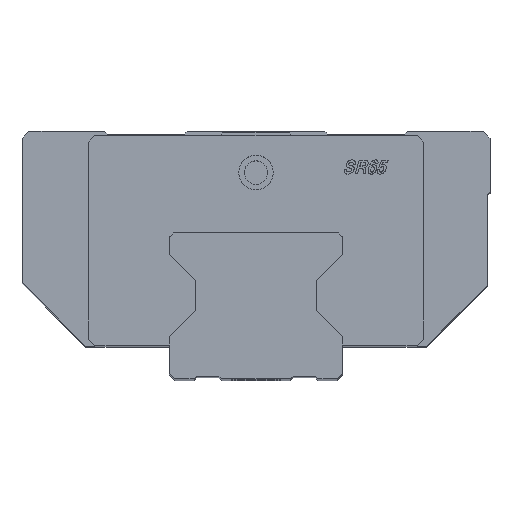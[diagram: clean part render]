
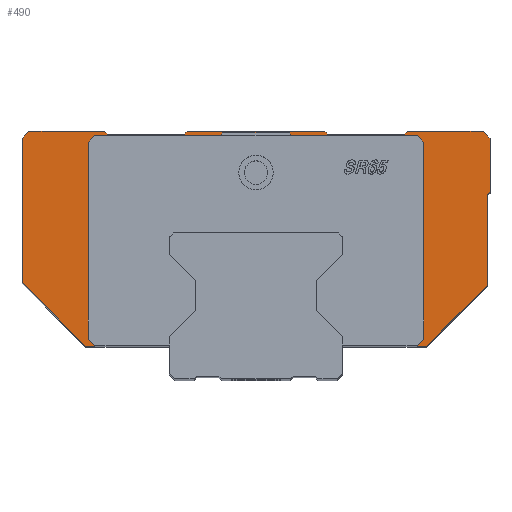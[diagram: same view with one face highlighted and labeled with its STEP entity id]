
A CAD part, top view. The second image highlights one B-rep face of the part: STEP entity #490.
In plain terms, the highlighted planar face has unit normal (0, 0, 1).
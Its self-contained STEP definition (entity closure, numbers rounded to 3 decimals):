
#490=ADVANCED_FACE('',(#854),#727,.T.);
#727=PLANE('',#5608);
#854=FACE_OUTER_BOUND('',#1148,.T.);
#1148=EDGE_LOOP('',(#2419,#2420,#2421,#2422,#2423,#2424,#2425,#2426,#2427,
#2428,#2429,#2430,#2431,#2432,#2433,#2434,#2435,#2436,#2437,#2438,#2439,
#2440,#2441,#2442,#2443,#2444,#2445,#2446,#2447,#2448));
#2419=ORIENTED_EDGE('',*,*,#4160,.F.);
#2420=ORIENTED_EDGE('',*,*,#4163,.F.);
#2421=ORIENTED_EDGE('',*,*,#4170,.F.);
#2422=ORIENTED_EDGE('',*,*,#4142,.F.);
#2423=ORIENTED_EDGE('',*,*,#4171,.F.);
#2424=ORIENTED_EDGE('',*,*,#4172,.F.);
#2425=ORIENTED_EDGE('',*,*,#4123,.F.);
#2426=ORIENTED_EDGE('',*,*,#4120,.F.);
#2427=ORIENTED_EDGE('',*,*,#4118,.F.);
#2428=ORIENTED_EDGE('',*,*,#4108,.F.);
#2429=ORIENTED_EDGE('',*,*,#4106,.F.);
#2430=ORIENTED_EDGE('',*,*,#4104,.F.);
#2431=ORIENTED_EDGE('',*,*,#4102,.F.);
#2432=ORIENTED_EDGE('',*,*,#4096,.F.);
#2433=ORIENTED_EDGE('',*,*,#4173,.F.);
#2434=ORIENTED_EDGE('',*,*,#4174,.F.);
#2435=ORIENTED_EDGE('',*,*,#4175,.F.);
#2436=ORIENTED_EDGE('',*,*,#4176,.F.);
#2437=ORIENTED_EDGE('',*,*,#4177,.F.);
#2438=ORIENTED_EDGE('',*,*,#4178,.F.);
#2439=ORIENTED_EDGE('',*,*,#4179,.F.);
#2440=ORIENTED_EDGE('',*,*,#4064,.F.);
#2441=ORIENTED_EDGE('',*,*,#4180,.F.);
#2442=ORIENTED_EDGE('',*,*,#4181,.F.);
#2443=ORIENTED_EDGE('',*,*,#4182,.F.);
#2444=ORIENTED_EDGE('',*,*,#4183,.F.);
#2445=ORIENTED_EDGE('',*,*,#4184,.F.);
#2446=ORIENTED_EDGE('',*,*,#4185,.F.);
#2447=ORIENTED_EDGE('',*,*,#4186,.F.);
#2448=ORIENTED_EDGE('',*,*,#4187,.F.);
#3489=VERTEX_POINT('',#7906);
#3490=VERTEX_POINT('',#7908);
#3511=VERTEX_POINT('',#7973);
#3512=VERTEX_POINT('',#7975);
#3517=VERTEX_POINT('',#7987);
#3518=VERTEX_POINT('',#7991);
#3519=VERTEX_POINT('',#7995);
#3520=VERTEX_POINT('',#7999);
#3529=VERTEX_POINT('',#8019);
#3530=VERTEX_POINT('',#8023);
#3532=VERTEX_POINT('',#8029);
#3545=VERTEX_POINT('',#8065);
#3546=VERTEX_POINT('',#8067);
#3554=VERTEX_POINT('',#8106);
#3555=VERTEX_POINT('',#8107);
#3556=VERTEX_POINT('',#8112);
#3562=VERTEX_POINT('',#8131);
#3563=VERTEX_POINT('',#8134);
#3564=VERTEX_POINT('',#8136);
#3565=VERTEX_POINT('',#8138);
#3566=VERTEX_POINT('',#8140);
#3567=VERTEX_POINT('',#8142);
#3568=VERTEX_POINT('',#8144);
#3569=VERTEX_POINT('',#8147);
#3570=VERTEX_POINT('',#8149);
#3571=VERTEX_POINT('',#8151);
#3572=VERTEX_POINT('',#8153);
#3573=VERTEX_POINT('',#8155);
#3574=VERTEX_POINT('',#8157);
#3575=VERTEX_POINT('',#8159);
#4064=EDGE_CURVE('',#3489,#3490,#4655,.T.);
#4096=EDGE_CURVE('',#3511,#3512,#4671,.T.);
#4102=EDGE_CURVE('',#3512,#3517,#4673,.T.);
#4104=EDGE_CURVE('',#3517,#3518,#4675,.T.);
#4106=EDGE_CURVE('',#3518,#3519,#4677,.T.);
#4108=EDGE_CURVE('',#3519,#3520,#4679,.T.);
#4118=EDGE_CURVE('',#3520,#3529,#4681,.T.);
#4120=EDGE_CURVE('',#3529,#3530,#4683,.T.);
#4123=EDGE_CURVE('',#3530,#3532,#4686,.T.);
#4142=EDGE_CURVE('',#3545,#3546,#4700,.T.);
#4160=EDGE_CURVE('',#3554,#3555,#4713,.T.);
#4163=EDGE_CURVE('',#3556,#3554,#4716,.T.);
#4170=EDGE_CURVE('',#3546,#3556,#4718,.T.);
#4171=EDGE_CURVE('',#3562,#3545,#4719,.T.);
#4172=EDGE_CURVE('',#3532,#3562,#4720,.T.);
#4173=EDGE_CURVE('',#3563,#3511,#4721,.T.);
#4174=EDGE_CURVE('',#3564,#3563,#4722,.T.);
#4175=EDGE_CURVE('',#3565,#3564,#4723,.T.);
#4176=EDGE_CURVE('',#3566,#3565,#4724,.T.);
#4177=EDGE_CURVE('',#3567,#3566,#4725,.T.);
#4178=EDGE_CURVE('',#3568,#3567,#4726,.T.);
#4179=EDGE_CURVE('',#3490,#3568,#4727,.T.);
#4180=EDGE_CURVE('',#3569,#3489,#4728,.T.);
#4181=EDGE_CURVE('',#3570,#3569,#4729,.T.);
#4182=EDGE_CURVE('',#3571,#3570,#4730,.T.);
#4183=EDGE_CURVE('',#3572,#3571,#4731,.T.);
#4184=EDGE_CURVE('',#3573,#3572,#4732,.T.);
#4185=EDGE_CURVE('',#3574,#3573,#4733,.T.);
#4186=EDGE_CURVE('',#3575,#3574,#4734,.T.);
#4187=EDGE_CURVE('',#3555,#3575,#4735,.T.);
#4655=LINE('',#7907,#5066);
#4671=LINE('',#7974,#5082);
#4673=LINE('',#7986,#5084);
#4675=LINE('',#7990,#5086);
#4677=LINE('',#7994,#5088);
#4679=LINE('',#7998,#5090);
#4681=LINE('',#8018,#5092);
#4683=LINE('',#8022,#5094);
#4686=LINE('',#8028,#5097);
#4700=LINE('',#8066,#5111);
#4713=LINE('',#8105,#5124);
#4716=LINE('',#8111,#5127);
#4718=LINE('',#8128,#5129);
#4719=LINE('',#8130,#5130);
#4720=LINE('',#8132,#5131);
#4721=LINE('',#8133,#5132);
#4722=LINE('',#8135,#5133);
#4723=LINE('',#8137,#5134);
#4724=LINE('',#8139,#5135);
#4725=LINE('',#8141,#5136);
#4726=LINE('',#8143,#5137);
#4727=LINE('',#8145,#5138);
#4728=LINE('',#8146,#5139);
#4729=LINE('',#8148,#5140);
#4730=LINE('',#8150,#5141);
#4731=LINE('',#8152,#5142);
#4732=LINE('',#8154,#5143);
#4733=LINE('',#8156,#5144);
#4734=LINE('',#8158,#5145);
#4735=LINE('',#8160,#5146);
#5066=VECTOR('',#6174,1.);
#5082=VECTOR('',#6248,1.);
#5084=VECTOR('',#6260,1.);
#5086=VECTOR('',#6264,1.);
#5088=VECTOR('',#6268,1.);
#5090=VECTOR('',#6272,1.);
#5092=VECTOR('',#6292,1.);
#5094=VECTOR('',#6296,1.);
#5097=VECTOR('',#6301,1.);
#5111=VECTOR('',#6335,1.);
#5124=VECTOR('',#6384,1.);
#5127=VECTOR('',#6389,1.);
#5129=VECTOR('',#6409,1.);
#5130=VECTOR('',#6412,1.);
#5131=VECTOR('',#6413,1.);
#5132=VECTOR('',#6414,1.);
#5133=VECTOR('',#6415,1.);
#5134=VECTOR('',#6416,1.);
#5135=VECTOR('',#6417,1.);
#5136=VECTOR('',#6418,1.);
#5137=VECTOR('',#6419,1.);
#5138=VECTOR('',#6420,1.);
#5139=VECTOR('',#6421,1.);
#5140=VECTOR('',#6422,1.);
#5141=VECTOR('',#6423,1.);
#5142=VECTOR('',#6424,1.);
#5143=VECTOR('',#6425,1.);
#5144=VECTOR('',#6426,1.);
#5145=VECTOR('',#6427,1.);
#5146=VECTOR('',#6428,1.);
#5608=AXIS2_PLACEMENT_3D('',#8161,#6429,#6430);
#6174=DIRECTION('',(-1.,0.,0.));
#6248=DIRECTION('',(1.,0.,0.));
#6260=DIRECTION('',(0.707,-0.707,0.));
#6264=DIRECTION('',(1.,0.,0.));
#6268=DIRECTION('',(0.707,0.707,0.));
#6272=DIRECTION('',(1.,0.,0.));
#6292=DIRECTION('',(0.707,-0.707,0.));
#6296=DIRECTION('',(0.,-1.,0.));
#6301=DIRECTION('',(-0.707,-0.707,0.));
#6335=DIRECTION('',(-1.,0.,0.));
#6384=DIRECTION('',(-0.707,0.707,0.));
#6389=DIRECTION('',(0.,1.,0.));
#6409=DIRECTION('',(0.707,0.707,0.));
#6412=DIRECTION('',(-0.707,-0.707,0.));
#6413=DIRECTION('',(0.,-1.,0.));
#6414=DIRECTION('',(0.707,0.707,0.));
#6415=DIRECTION('',(1.,0.,0.));
#6416=DIRECTION('',(0.707,-0.707,0.));
#6417=DIRECTION('',(1.,0.,0.));
#6418=DIRECTION('',(0.707,0.707,0.));
#6419=DIRECTION('',(0.,1.,0.));
#6420=DIRECTION('',(-0.707,0.707,0.));
#6421=DIRECTION('',(0.707,-0.707,0.));
#6422=DIRECTION('',(0.,-1.,0.));
#6423=DIRECTION('',(-0.707,-0.707,0.));
#6424=DIRECTION('',(-1.,0.,0.));
#6425=DIRECTION('',(-0.707,-0.707,0.));
#6426=DIRECTION('',(-1.,0.,0.));
#6427=DIRECTION('',(-0.707,0.707,0.));
#6428=DIRECTION('',(-1.,0.,0.));
#6429=DIRECTION('',(0.,0.,1.));
#6430=DIRECTION('',(1.,0.,0.));
#7906=CARTESIAN_POINT('',(-58.5,-78.,111.5));
#7907=CARTESIAN_POINT('',(-58.5,-78.,111.5));
#7908=CARTESIAN_POINT('',(-62.,-78.,111.5));
#7973=CARTESIAN_POINT('',(-25.,0.,111.5));
#7974=CARTESIAN_POINT('',(-25.,0.,111.5));
#7975=CARTESIAN_POINT('',(25.,0.,111.5));
#7986=CARTESIAN_POINT('',(25.,0.,111.5));
#7987=CARTESIAN_POINT('',(26.,-1.,111.5));
#7990=CARTESIAN_POINT('',(26.,-1.,111.5));
#7991=CARTESIAN_POINT('',(54.,-1.,111.5));
#7994=CARTESIAN_POINT('',(54.,-1.,111.5));
#7995=CARTESIAN_POINT('',(55.,0.,111.5));
#7998=CARTESIAN_POINT('',(55.,0.,111.5));
#7999=CARTESIAN_POINT('',(82.5,0.,111.5));
#8018=CARTESIAN_POINT('',(82.5,0.,111.5));
#8019=CARTESIAN_POINT('',(85.,-2.5,111.5));
#8022=CARTESIAN_POINT('',(85.,-2.5,111.5));
#8023=CARTESIAN_POINT('',(85.,-22.,111.5));
#8028=CARTESIAN_POINT('',(85.,-22.,111.5));
#8029=CARTESIAN_POINT('',(84.,-23.,111.5));
#8065=CARTESIAN_POINT('',(62.,-78.,111.5));
#8066=CARTESIAN_POINT('',(62.,-78.,111.5));
#8067=CARTESIAN_POINT('',(58.5,-78.,111.5));
#8105=CARTESIAN_POINT('',(61.,-4.,111.5));
#8106=CARTESIAN_POINT('',(61.,-4.,111.5));
#8107=CARTESIAN_POINT('',(58.5,-1.5,111.5));
#8111=CARTESIAN_POINT('',(61.,-75.5,111.5));
#8112=CARTESIAN_POINT('',(61.,-75.5,111.5));
#8128=CARTESIAN_POINT('',(58.5,-78.,111.5));
#8130=CARTESIAN_POINT('',(84.,-56.,111.5));
#8131=CARTESIAN_POINT('',(84.,-56.,111.5));
#8132=CARTESIAN_POINT('',(84.,-23.,111.5));
#8133=CARTESIAN_POINT('',(-26.,-1.,111.5));
#8134=CARTESIAN_POINT('',(-26.,-1.,111.5));
#8135=CARTESIAN_POINT('',(-54.,-1.,111.5));
#8136=CARTESIAN_POINT('',(-54.,-1.,111.5));
#8137=CARTESIAN_POINT('',(-55.,0.,111.5));
#8138=CARTESIAN_POINT('',(-55.,0.,111.5));
#8139=CARTESIAN_POINT('',(-82.5,0.,111.5));
#8140=CARTESIAN_POINT('',(-82.5,0.,111.5));
#8141=CARTESIAN_POINT('',(-85.,-2.5,111.5));
#8142=CARTESIAN_POINT('',(-85.,-2.5,111.5));
#8143=CARTESIAN_POINT('',(-85.,-55.,111.5));
#8144=CARTESIAN_POINT('',(-85.,-55.,111.5));
#8145=CARTESIAN_POINT('',(-62.,-78.,111.5));
#8146=CARTESIAN_POINT('',(-61.,-75.5,111.5));
#8147=CARTESIAN_POINT('',(-61.,-75.5,111.5));
#8148=CARTESIAN_POINT('',(-61.,-4.,111.5));
#8149=CARTESIAN_POINT('',(-61.,-4.,111.5));
#8150=CARTESIAN_POINT('',(-58.5,-1.5,111.5));
#8151=CARTESIAN_POINT('',(-58.5,-1.5,111.5));
#8152=CARTESIAN_POINT('',(-13.,-1.5,111.5));
#8153=CARTESIAN_POINT('',(-13.,-1.5,111.5));
#8154=CARTESIAN_POINT('',(-12.,-0.5,111.5));
#8155=CARTESIAN_POINT('',(-12.,-0.5,111.5));
#8156=CARTESIAN_POINT('',(12.,-0.5,111.5));
#8157=CARTESIAN_POINT('',(12.,-0.5,111.5));
#8158=CARTESIAN_POINT('',(13.,-1.5,111.5));
#8159=CARTESIAN_POINT('',(13.,-1.5,111.5));
#8160=CARTESIAN_POINT('',(58.5,-1.5,111.5));
#8161=CARTESIAN_POINT('',(-93.5,-81.9,111.5));
